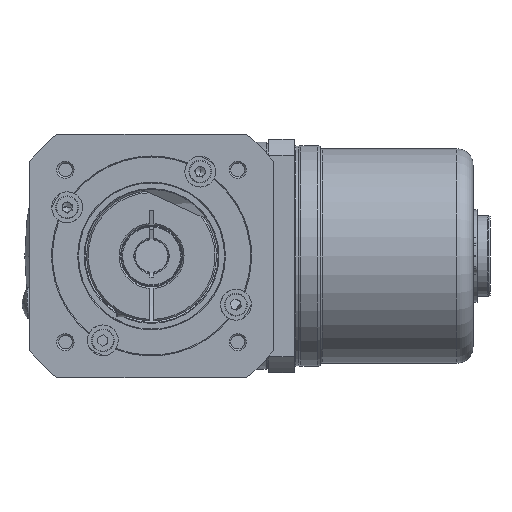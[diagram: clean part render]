
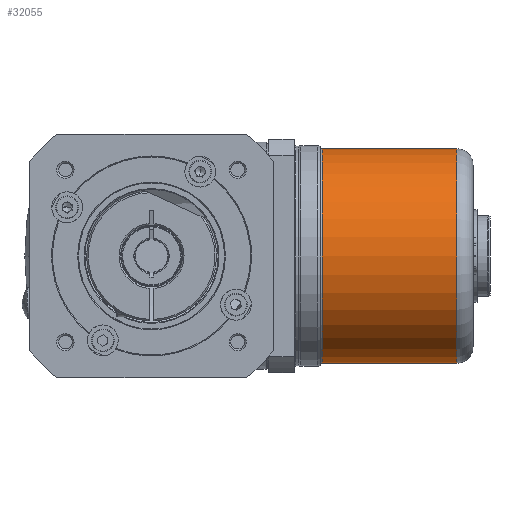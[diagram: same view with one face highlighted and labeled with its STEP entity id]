
A CAD part, front view. The second image highlights one B-rep face of the part: STEP entity #32055.
In plain terms, the highlighted cylindrical face has radius 33 mm (diameter 66 mm), a partial arc.
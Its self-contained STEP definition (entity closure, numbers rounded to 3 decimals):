
#339 = AXIS2_PLACEMENT_3D ( 'NONE', #2594, #10454, #17165 ) ;
#904 = EDGE_CURVE ( 'NONE', #37021, #6908, #24725, .T. ) ;
#1909 = LINE ( 'NONE', #8849, #2472 ) ;
#2472 = VECTOR ( 'NONE', #40009, 1000. ) ;
#2594 = CARTESIAN_POINT ( 'NONE',  ( 94., 0., 0. ) ) ;
#3541 = DIRECTION ( 'NONE',  ( 1., 0., 0. ) ) ;
#5648 = CARTESIAN_POINT ( 'NONE',  ( 52.5, 0., -33. ) ) ;
#6398 = CARTESIAN_POINT ( 'NONE',  ( 52.5, 0., 0. ) ) ;
#6908 = VERTEX_POINT ( 'NONE', #5648 ) ;
#7505 = ORIENTED_EDGE ( 'NONE', *, *, #23485, .T. ) ;
#8719 = EDGE_CURVE ( 'NONE', #37356, #23297, #20257, .T. ) ;
#8849 = CARTESIAN_POINT ( 'NONE',  ( 52., 0., 33. ) ) ;
#10208 = AXIS2_PLACEMENT_3D ( 'NONE', #18377, #25274, #29181 ) ;
#10454 = DIRECTION ( 'NONE',  ( -1., 0., 0. ) ) ;
#15879 = VECTOR ( 'NONE', #3541, 1000. ) ;
#16322 = CARTESIAN_POINT ( 'NONE',  ( 94., 0., 33. ) ) ;
#16487 = ORIENTED_EDGE ( 'NONE', *, *, #8719, .T. ) ;
#17067 = DIRECTION ( 'NONE',  ( 1., 0., 0. ) ) ;
#17165 = DIRECTION ( 'NONE',  ( 0., 0., -1. ) ) ;
#18377 = CARTESIAN_POINT ( 'NONE',  ( 52., 0., 0. ) ) ;
#19307 = FACE_OUTER_BOUND ( 'NONE', #36261, .T. ) ;
#20257 = CIRCLE ( 'NONE', #339, 33. ) ;
#20892 = ORIENTED_EDGE ( 'NONE', *, *, #904, .T. ) ;
#21671 = CARTESIAN_POINT ( 'NONE',  ( 94., 0., -33. ) ) ;
#23297 = VERTEX_POINT ( 'NONE', #16322 ) ;
#23485 = EDGE_CURVE ( 'NONE', #6908, #37356, #28012, .T. ) ;
#24725 = CIRCLE ( 'NONE', #45334, 33. ) ;
#25274 = DIRECTION ( 'NONE',  ( 1., 0., 0. ) ) ;
#28012 = LINE ( 'NONE', #45091, #15879 ) ;
#29181 = DIRECTION ( 'NONE',  ( 0., 0., -1. ) ) ;
#31094 = DIRECTION ( 'NONE',  ( 0., 0., -1. ) ) ;
#32055 = ADVANCED_FACE ( 'NONE', ( #19307 ), #43036, .T. ) ;
#34037 = ORIENTED_EDGE ( 'NONE', *, *, #37901, .F. ) ;
#36261 = EDGE_LOOP ( 'NONE', ( #34037, #20892, #7505, #16487 ) ) ;
#37021 = VERTEX_POINT ( 'NONE', #44621 ) ;
#37356 = VERTEX_POINT ( 'NONE', #21671 ) ;
#37901 = EDGE_CURVE ( 'NONE', #37021, #23297, #1909, .T. ) ;
#40009 = DIRECTION ( 'NONE',  ( 1., 0., 0. ) ) ;
#43036 = CYLINDRICAL_SURFACE ( 'NONE', #10208, 33. ) ;
#44621 = CARTESIAN_POINT ( 'NONE',  ( 52.5, 0., 33. ) ) ;
#45091 = CARTESIAN_POINT ( 'NONE',  ( 52., 0., -33. ) ) ;
#45334 = AXIS2_PLACEMENT_3D ( 'NONE', #6398, #17067, #31094 ) ;
